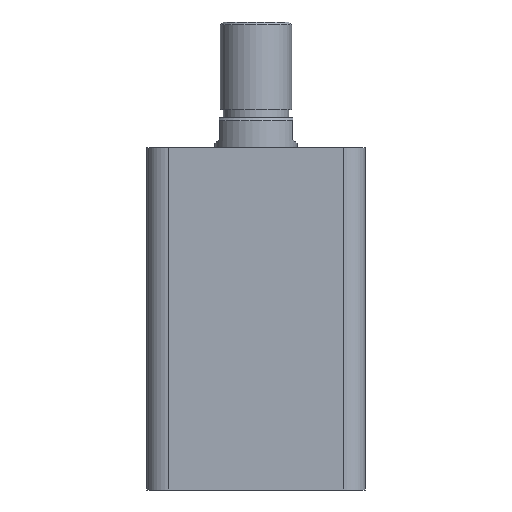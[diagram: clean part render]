
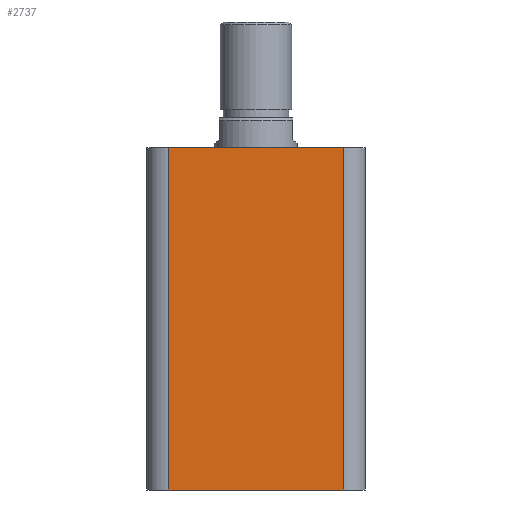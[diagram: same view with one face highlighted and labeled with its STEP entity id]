
A CAD part, front view. The second image highlights one B-rep face of the part: STEP entity #2737.
In plain terms, the highlighted planar face has unit normal (0, -1, 0).
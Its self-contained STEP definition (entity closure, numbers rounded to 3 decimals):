
#330 = ORIENTED_EDGE ( 'NONE', *, *, #1122, .F. ) ;
#333 = ORIENTED_EDGE ( 'NONE', *, *, #1123, .T. ) ;
#336 = ORIENTED_EDGE ( 'NONE', *, *, #1125, .T. ) ;
#341 = ORIENTED_EDGE ( 'NONE', *, *, #1124, .T. ) ;
#377 = VERTEX_POINT ( 'NONE', #2116 ) ;
#393 = VERTEX_POINT ( 'NONE', #2130 ) ;
#411 = VECTOR ( 'NONE', #952, 1000. ) ;
#415 = VECTOR ( 'NONE', #975, 1000. ) ;
#416 = LINE ( 'NONE', #958, #411 ) ;
#418 = VECTOR ( 'NONE', #963, 1000. ) ;
#421 = VECTOR ( 'NONE', #808, 1000. ) ;
#422 = LINE ( 'NONE', #970, #418 ) ;
#425 = LINE ( 'NONE', #980, #421 ) ;
#435 = LINE ( 'NONE', #933, #415 ) ;
#526 = VERTEX_POINT ( 'NONE', #2045 ) ;
#617 = VERTEX_POINT ( 'NONE', #2015 ) ;
#808 = DIRECTION ( 'NONE',  ( 1., 0., 0. ) ) ;
#933 = CARTESIAN_POINT ( 'NONE',  ( -40., -40., 0. ) ) ;
#952 = DIRECTION ( 'NONE',  ( 0., 0., 1. ) ) ;
#958 = CARTESIAN_POINT ( 'NONE',  ( 32., -40., 125. ) ) ;
#963 = DIRECTION ( 'NONE',  ( 0., 0., -1. ) ) ;
#970 = CARTESIAN_POINT ( 'NONE',  ( -32., -40., 125. ) ) ;
#975 = DIRECTION ( 'NONE',  ( 1., 0., 0. ) ) ;
#980 = CARTESIAN_POINT ( 'NONE',  ( -40., -40., 125. ) ) ;
#1122 = EDGE_CURVE ( 'NONE', #617, #526, #425, .T. ) ;
#1123 = EDGE_CURVE ( 'NONE', #617, #393, #422, .T. ) ;
#1124 = EDGE_CURVE ( 'NONE', #393, #377, #435, .T. ) ;
#1125 = EDGE_CURVE ( 'NONE', #377, #526, #416, .T. ) ;
#1335 = EDGE_LOOP ( 'NONE', ( #330, #333, #341, #336 ) ) ;
#1846 = AXIS2_PLACEMENT_3D ( 'NONE', #2186, #2507, #2506 ) ;
#2015 = CARTESIAN_POINT ( 'NONE',  ( -32., -40., 125. ) ) ;
#2045 = CARTESIAN_POINT ( 'NONE',  ( 32., -40., 125. ) ) ;
#2116 = CARTESIAN_POINT ( 'NONE',  ( 32., -40., 0. ) ) ;
#2130 = CARTESIAN_POINT ( 'NONE',  ( -32., -40., 0. ) ) ;
#2179 = PLANE ( 'NONE',  #1846 ) ;
#2186 = CARTESIAN_POINT ( 'NONE',  ( -40., -40., 125. ) ) ;
#2506 = DIRECTION ( 'NONE',  ( 0., 0., 1. ) ) ;
#2507 = DIRECTION ( 'NONE',  ( 0., 1., 0. ) ) ;
#2587 = FACE_OUTER_BOUND ( 'NONE', #1335, .T. ) ;
#2737 = ADVANCED_FACE ( 'NONE', ( #2587 ), #2179, .F. ) ;
